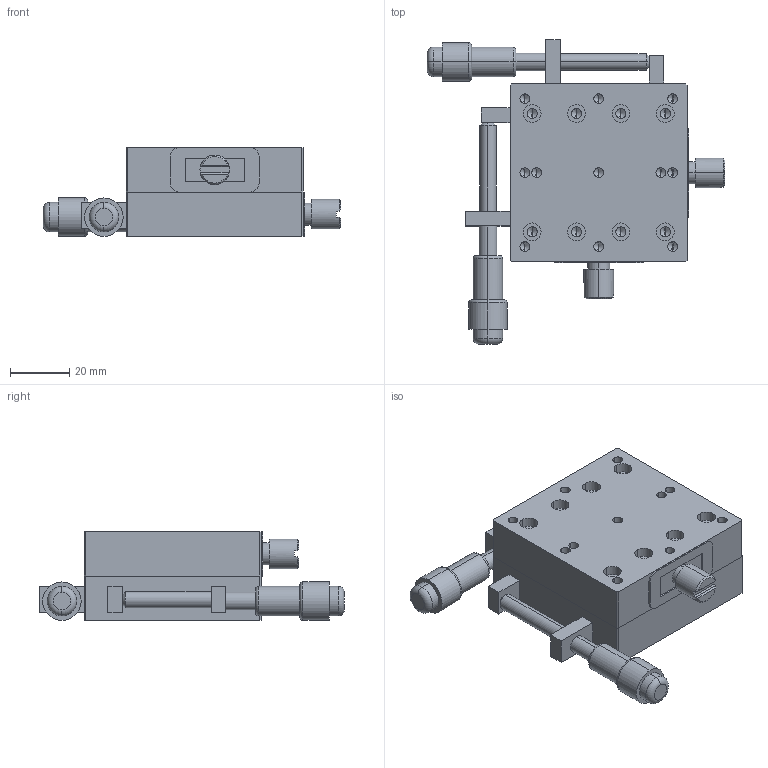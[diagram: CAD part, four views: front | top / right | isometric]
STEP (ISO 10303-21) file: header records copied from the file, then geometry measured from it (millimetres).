
FILE_DESCRIPTION (( 'STEP AP214' ), '1' );
FILE_NAME ('PT-XY60-L.STEP', '2022-09-04T09:42:23', ( '' ), ( '' ), 'SwSTEP 2.0', 'SolidWorks 2017', '' );
FILE_SCHEMA (( 'AUTOMOTIVE_DESIGN' ));
Length unit declared in the file: millimetre
Products named in the file (5): 唅聽; PT-XY60-L; PT-XY60C菁釱; PT-XY60C菁釱2; 蹟唅痀ん-耜晚
Assembly tree (6 placements, depth 2):
  PT-XY60-L
    PT-XY60C菁釱2
    PT-XY60C菁釱
    蹟唅痀ん-耜晚  x2
    唅聽  x2
Bounding box: 100.6 x 103 x 30 mm (x, y, z)
Volume: 114461.5 mm3; surface area: 33932.9 mm2
Topology: 8 solids, 8 shells, 308 faces, 710 edges, 433 vertices
Faces by surface type: cylinder 138, plane 110, cone 48, torus 12
Entity records: 7262 total; most frequent: DIRECTION 1295, CARTESIAN_POINT 1141, ORIENTED_EDGE 1064, EDGE_CURVE 532, AXIS2_PLACEMENT_3D 514, VERTEX_POINT 344, EDGE_LOOP 316, VECTOR 267
